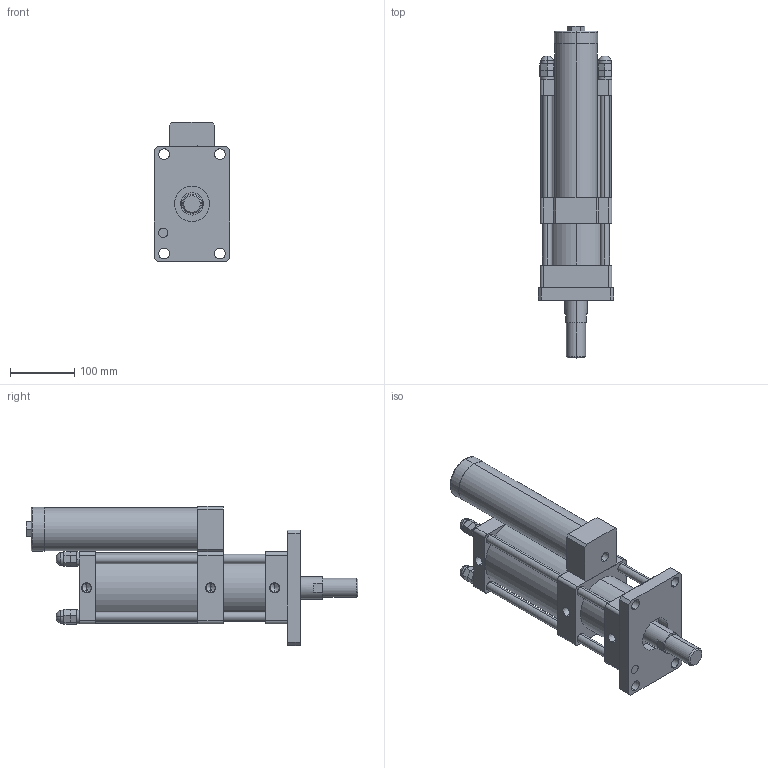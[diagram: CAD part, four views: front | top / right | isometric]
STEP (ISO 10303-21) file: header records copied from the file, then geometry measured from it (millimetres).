
FILE_DESCRIPTION (( 'STEP AP203' ), '1' );
FILE_NAME ('CPT-80-5-8T.STEP', '2016-03-15T05:23:35', ( 'WIN' ), ( '' ), 'SwSTEP 2.0', 'SolidWorks 2014', '' );
FILE_SCHEMA (( 'CONFIG_CONTROL_DESIGN' ));
Length unit declared in the file: millimetre
Products named in the file (1): CPT-80-5-8T
Bounding box: 118 x 518 x 217 mm (x, y, z)
Volume: 3865741.7 mm3; surface area: 494306.3 mm2
Topology: 17 solids, 17 shells, 390 faces, 959 edges, 558 vertices
Faces by surface type: plane 180, cylinder 90, bspline 48, torus 46, cone 26
Entity records: 12581 total; most frequent: CARTESIAN_POINT 3666, DIRECTION 1874, ORIENTED_EDGE 1786, EDGE_CURVE 893, AXIS2_PLACEMENT_3D 686, VERTEX_POINT 558, VECTOR 502, LINE 502
